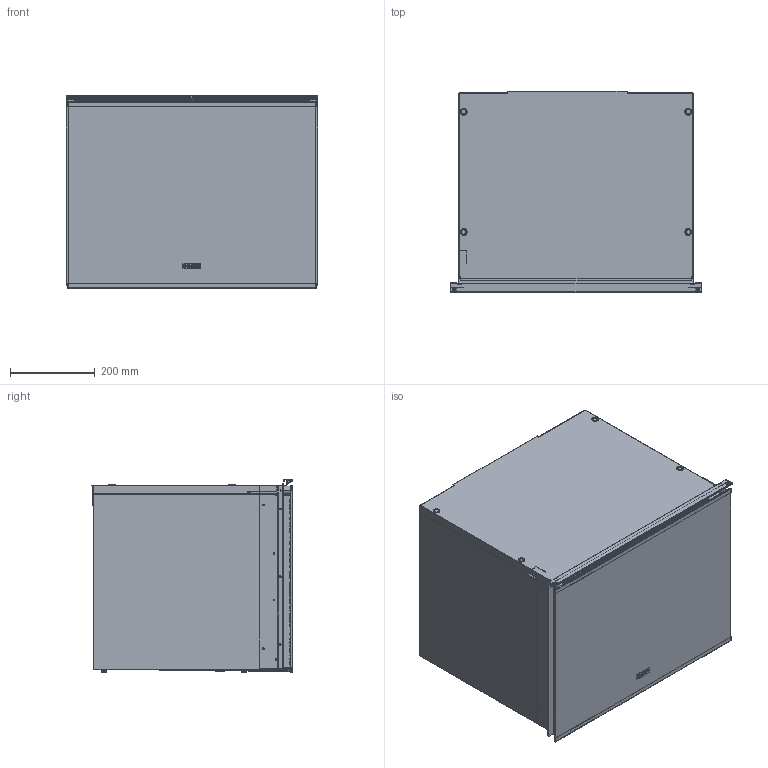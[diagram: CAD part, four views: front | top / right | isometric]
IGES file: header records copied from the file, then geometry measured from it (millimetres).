
Global section: file name: F:\_CONVERSIONE_CAD_2024_2025\03_3D kits new\04_Wine Cooler\3D001_Wine-Coolers_Mythos_FMY-24-WCR\3D001_Wine-Coolers_Mythos_FMY-24-WCR.igs; native system: Rhinoceros ( Jan  9 2024 ); preprocessor: Trout Lake IGES 012 Jan  9 2024; date: 240207.144657; units: millimetre
Bounding box: 595 x 475.5 x 455.7 mm (x, y, z)
Surface area: 4128777.3 mm2 (no closed solid volume)
Topology: 0 solids, 0 shells, 2250 faces, 16835 edges, 16835 vertices
Faces by surface type: bspline 2250
